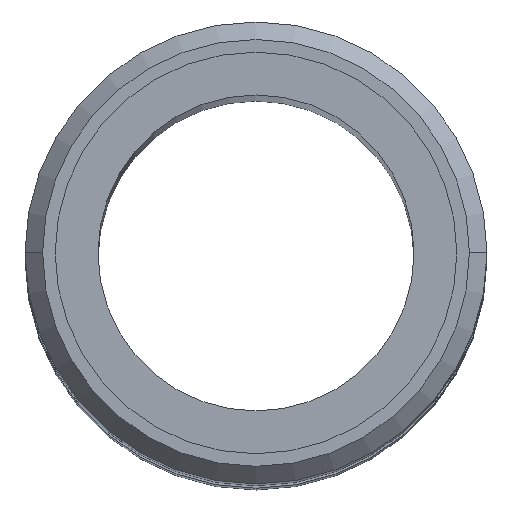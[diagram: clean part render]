
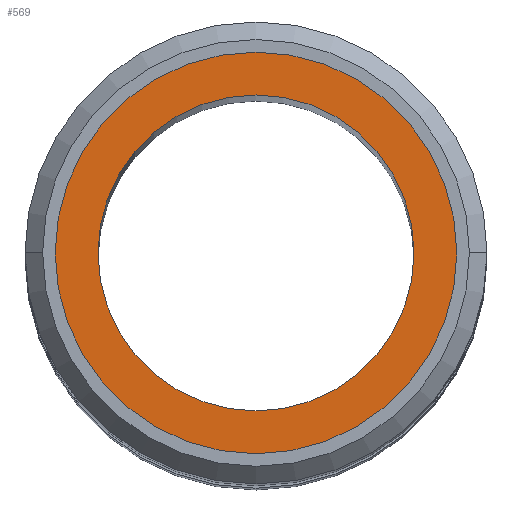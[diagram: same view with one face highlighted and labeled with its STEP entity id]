
A CAD part, top view. The second image highlights one B-rep face of the part: STEP entity #569.
In plain terms, the highlighted planar face has unit normal (0, 0, 1).
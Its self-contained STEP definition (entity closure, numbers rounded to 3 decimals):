
#11 = EDGE_LOOP ( 'NONE', ( #47, #201 ) ) ;
#45 = ORIENTED_EDGE ( 'NONE', *, *, #871, .T. ) ;
#47 = ORIENTED_EDGE ( 'NONE', *, *, #776, .F. ) ;
#82 = CARTESIAN_POINT ( 'NONE',  ( 4.5, 0., 100. ) ) ;
#201 = ORIENTED_EDGE ( 'NONE', *, *, #808, .F. ) ;
#204 = CARTESIAN_POINT ( 'NONE',  ( 5.72, 0., 100. ) ) ;
#213 = CIRCLE ( 'NONE', #686, 4.5 ) ;
#225 = CARTESIAN_POINT ( 'NONE',  ( 5.72, 0., 100. ) ) ;
#258 = CIRCLE ( 'NONE', #704, 5.72 ) ;
#268 = DIRECTION ( 'NONE',  ( -1., 0., 0. ) ) ;
#269 = DIRECTION ( 'NONE',  ( 0., 0., -1. ) ) ;
#276 = CARTESIAN_POINT ( 'NONE',  ( 0., 0., 100. ) ) ;
#286 = CIRCLE ( 'NONE', #723, 5.72 ) ;
#302 = CIRCLE ( 'NONE', #733, 4.5 ) ;
#311 = DIRECTION ( 'NONE',  ( 1., 0., 0. ) ) ;
#316 = DIRECTION ( 'NONE',  ( 0., 0., 1. ) ) ;
#359 = PLANE ( 'NONE',  #907 ) ;
#367 = VERTEX_POINT ( 'NONE', #957 ) ;
#500 = ORIENTED_EDGE ( 'NONE', *, *, #755, .T. ) ;
#541 = DIRECTION ( 'NONE',  ( -1., 0., 0. ) ) ;
#546 = EDGE_LOOP ( 'NONE', ( #45, #500 ) ) ;
#552 = DIRECTION ( 'NONE',  ( 0., 0., -1. ) ) ;
#566 = CARTESIAN_POINT ( 'NONE',  ( 0., 0., 100. ) ) ;
#569 = ADVANCED_FACE ( 'NONE', ( #812, #805 ), #359, .T. ) ;
#686 = AXIS2_PLACEMENT_3D ( 'NONE', #1204, #1245, #1243 ) ;
#704 = AXIS2_PLACEMENT_3D ( 'NONE', #276, #269, #268 ) ;
#723 = AXIS2_PLACEMENT_3D ( 'NONE', #566, #552, #541 ) ;
#729 = DIRECTION ( 'NONE',  ( -1., 0., 0. ) ) ;
#733 = AXIS2_PLACEMENT_3D ( 'NONE', #739, #735, #729 ) ;
#735 = DIRECTION ( 'NONE',  ( 0., 0., -1. ) ) ;
#739 = CARTESIAN_POINT ( 'NONE',  ( 0., 0., 100. ) ) ;
#755 = EDGE_CURVE ( 'NONE', #857, #367, #302, .T. ) ;
#776 = EDGE_CURVE ( 'NONE', #886, #845, #286, .T. ) ;
#805 = FACE_OUTER_BOUND ( 'NONE', #11, .T. ) ;
#808 = EDGE_CURVE ( 'NONE', #845, #886, #258, .T. ) ;
#812 = FACE_BOUND ( 'NONE', #546, .T. ) ;
#845 = VERTEX_POINT ( 'NONE', #225 ) ;
#857 = VERTEX_POINT ( 'NONE', #82 ) ;
#871 = EDGE_CURVE ( 'NONE', #367, #857, #213, .T. ) ;
#886 = VERTEX_POINT ( 'NONE', #1237 ) ;
#907 = AXIS2_PLACEMENT_3D ( 'NONE', #204, #316, #311 ) ;
#957 = CARTESIAN_POINT ( 'NONE',  ( -4.5, 0., 100. ) ) ;
#1204 = CARTESIAN_POINT ( 'NONE',  ( 0., 0., 100. ) ) ;
#1237 = CARTESIAN_POINT ( 'NONE',  ( -5.72, 0., 100. ) ) ;
#1243 = DIRECTION ( 'NONE',  ( -1., 0., 0. ) ) ;
#1245 = DIRECTION ( 'NONE',  ( 0., 0., -1. ) ) ;
